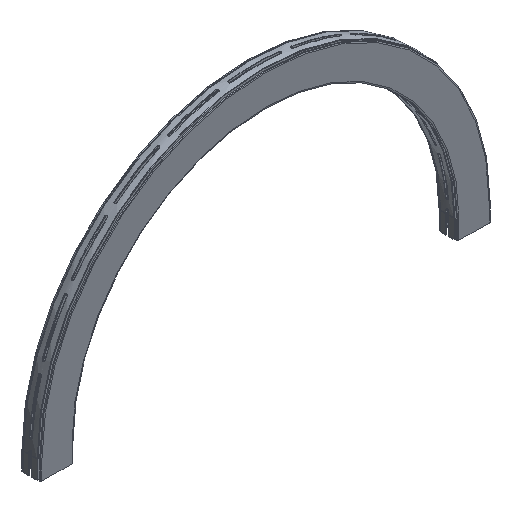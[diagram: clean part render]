
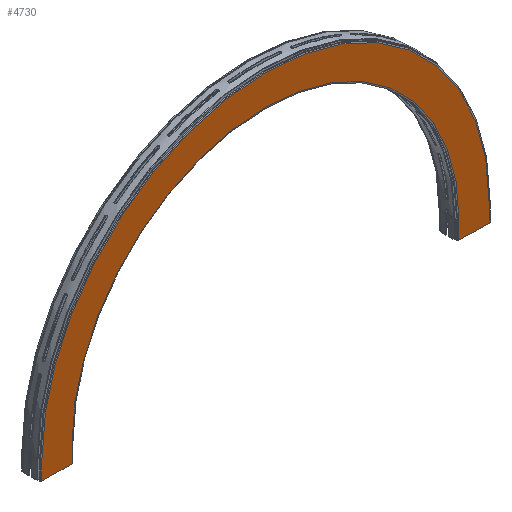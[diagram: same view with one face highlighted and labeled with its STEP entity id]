
A CAD part, isometric view. The second image highlights one B-rep face of the part: STEP entity #4730.
In plain terms, the highlighted planar face has unit normal (0, -1, 0).
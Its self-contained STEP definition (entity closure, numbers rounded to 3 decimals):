
#289=CIRCLE('',#5012,835.);
#290=CIRCLE('',#5014,965.);
#512=FACE_OUTER_BOUND('',#767,.T.);
#767=EDGE_LOOP('',(#3153,#3154,#3155,#3156,#3157,#3158,#3159,#3160));
#1069=LINE('',#6530,#1499);
#1073=LINE('',#6537,#1503);
#1084=LINE('',#6570,#1514);
#1085=LINE('',#6572,#1515);
#1086=LINE('',#6573,#1516);
#1087=LINE('',#6574,#1517);
#1499=VECTOR('',#5372,10.);
#1503=VECTOR('',#5378,10.);
#1514=VECTOR('',#5409,10.);
#1515=VECTOR('',#5410,10.);
#1516=VECTOR('',#5411,10.);
#1517=VECTOR('',#5412,10.);
#1929=VERTEX_POINT('',#6527);
#1930=VERTEX_POINT('',#6529);
#1932=VERTEX_POINT('',#6535);
#1941=VERTEX_POINT('',#6561);
#1942=VERTEX_POINT('',#6563);
#1943=VERTEX_POINT('',#6567);
#1944=VERTEX_POINT('',#6569);
#1945=VERTEX_POINT('',#6571);
#2405=EDGE_CURVE('',#1930,#1929,#1069,.T.);
#2409=EDGE_CURVE('',#1932,#1929,#1073,.T.);
#2422=EDGE_CURVE('',#1942,#1941,#289,.T.);
#2424=EDGE_CURVE('',#1943,#1932,#290,.T.);
#2425=EDGE_CURVE('',#1944,#1943,#1084,.T.);
#2426=EDGE_CURVE('',#1944,#1945,#1085,.T.);
#2427=EDGE_CURVE('',#1945,#1942,#1086,.T.);
#2428=EDGE_CURVE('',#1941,#1930,#1087,.T.);
#3153=ORIENTED_EDGE('',*,*,#2405,.T.);
#3154=ORIENTED_EDGE('',*,*,#2409,.F.);
#3155=ORIENTED_EDGE('',*,*,#2424,.F.);
#3156=ORIENTED_EDGE('',*,*,#2425,.F.);
#3157=ORIENTED_EDGE('',*,*,#2426,.T.);
#3158=ORIENTED_EDGE('',*,*,#2427,.T.);
#3159=ORIENTED_EDGE('',*,*,#2422,.T.);
#3160=ORIENTED_EDGE('',*,*,#2428,.T.);
#4571=PLANE('',#5013);
#4730=ADVANCED_FACE('',(#512),#4571,.T.);
#5012=AXIS2_PLACEMENT_3D('',#6564,#5402,#5403);
#5013=AXIS2_PLACEMENT_3D('',#6566,#5405,#5406);
#5014=AXIS2_PLACEMENT_3D('',#6568,#5407,#5408);
#5372=DIRECTION('',(1.,0.,0.));
#5378=DIRECTION('',(0.,0.,-1.));
#5402=DIRECTION('center_axis',(0.,1.,0.));
#5403=DIRECTION('ref_axis',(-1.,0.,0.));
#5405=DIRECTION('center_axis',(0.,-1.,0.));
#5406=DIRECTION('ref_axis',(0.,0.,1.));
#5407=DIRECTION('center_axis',(0.,1.,0.));
#5408=DIRECTION('ref_axis',(-1.,0.,0.));
#5409=DIRECTION('',(0.,0.,1.));
#5410=DIRECTION('',(1.,0.,0.));
#5411=DIRECTION('',(0.,0.,1.));
#5412=DIRECTION('',(0.,0.,-1.));
#6527=CARTESIAN_POINT('',(1904.001,-72.,0.));
#6529=CARTESIAN_POINT('',(1774.001,-72.,0.));
#6530=CARTESIAN_POINT('',(1808.001,-72.,0.));
#6535=CARTESIAN_POINT('',(1904.001,-72.,80.));
#6537=CARTESIAN_POINT('',(1904.001,-72.,2987.433));
#6561=CARTESIAN_POINT('',(1774.001,-72.,80.));
#6563=CARTESIAN_POINT('',(104.001,-72.,80.));
#6564=CARTESIAN_POINT('Origin',(939.001,-72.,80.));
#6566=CARTESIAN_POINT('Origin',(1774.001,-72.,2987.433));
#6567=CARTESIAN_POINT('',(-25.999,-72.,80.));
#6568=CARTESIAN_POINT('Origin',(939.001,-72.,80.));
#6569=CARTESIAN_POINT('',(-25.999,-72.,0.));
#6570=CARTESIAN_POINT('',(-25.999,-72.,0.));
#6571=CARTESIAN_POINT('',(104.001,-72.,0.));
#6572=CARTESIAN_POINT('',(-25.999,-72.,0.));
#6573=CARTESIAN_POINT('',(104.001,-72.,0.));
#6574=CARTESIAN_POINT('',(1774.001,-72.,2987.433));
